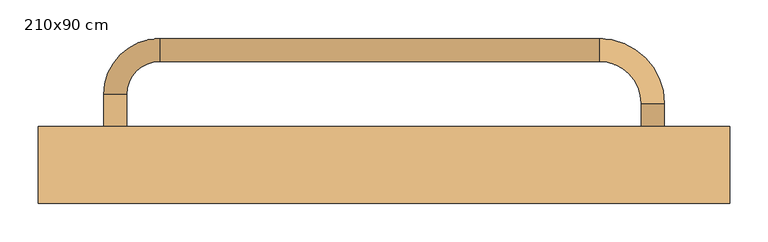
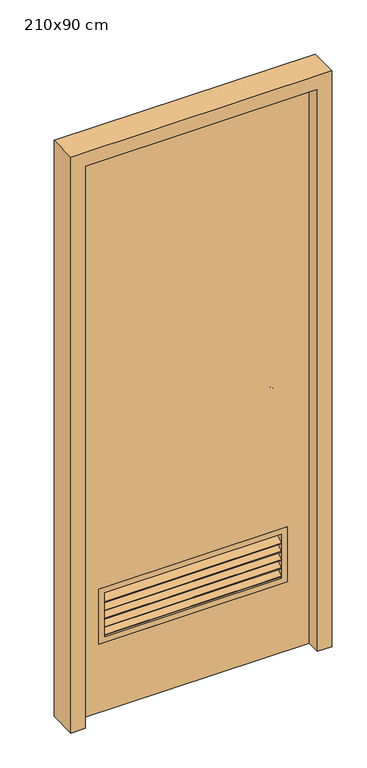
"""IFC4 building model written with IfcOpenShell, lengths in millimetres: door geometry, ARQ-PU-IN-Barra accesible : 210x90 cm."""

from ifc_helpers import new_model, si_unit, point, frame, origin, place, context, project, spatial, polyline, circle_curve, ellipse_curve, trimmed, outline, extrude, source, transform, mapped, element, save
from ifc_brep_helpers import plane_surface, cylinder_surface, revolved_surface, advanced_brep


def door_210x90_cm_49e920ed(model_context):
    return source(origin(), model_context, "Body", "SolidModel", [
        extrude(outline(polyline([(2100.0, -450.0), (0.0, -450.0), (0.0, -400.0), (2050.0, -400.0), (2050.0, 400.0), (0.0, 400.0), (0.0, 450.0), (2100.0, 450.0), (2100.0, -450.0)])), frame((0.0, -50.0, 0.0), z_axis=(0.0, 1.0, 0.0), x_axis=(0.0, 0.0, 1.0)), (0.0, 0.0, 1.0), 100.0),
        advanced_brep(
        [(-365.0, 50.0, 900.0), (-335.0, 50.0, 900.0), (-335.0, 91.9202999, 900.0), (-365.0, 91.9202999, 900.0), (-291.9202999, 135.0, 900.0), (-291.9202999, 165.0, 900.0), (280.3328988, 135.0, 900.0), (280.3328988, 165.0, 900.0), (335.0, 80.3328988, 900.0), (365.0, 80.3328988, 900.0), (365.0, 50.0, 900.0), (335.0, 50.0, 900.0)],
        [
            (0, 1, circle_curve(frame((-350.0, 50.0, 900.0), z_axis=(0.0, -1.0, 0.0), x_axis=(1.0, 0.0, 0.0)), 15.0)),
            (1, 0, circle_curve(frame((-350.0, 50.0, 900.0), z_axis=(0.0, -1.0, 0.0), x_axis=(1.0, 0.0, 0.0)), 15.0)),
            (1, 2),
            (2, 3, circle_curve(frame((-350.0, 91.9202999, 900.0), z_axis=(0.0, -1.0, 0.0), x_axis=(1.0, 0.0, 0.0)), 15.0)),
            (3, 0),
            (3, 2, circle_curve(frame((-350.0, 91.9202999, 900.0), z_axis=(0.0, -1.0, 0.0), x_axis=(1.0, 0.0, 0.0)), 15.0)),
            (4, 5, circle_curve(frame((-291.9202999, 150.0, 900.0), z_axis=(-1.0, 0.0, 0.0), x_axis=(0.0, -1.0, 0.0)), 15.0)),
            (5, 3, circle_curve(frame((-291.9202999, 91.9202999, 900.0), z_axis=(0.0, 0.0, 1.0), x_axis=(-1.0, 0.0, 0.0)), 73.0797001)),
            (2, 4, circle_curve(frame((-291.9202999, 91.9202999, 900.0), z_axis=(0.0, 0.0, -1.0), x_axis=(-1.0, 0.0, 0.0)), 43.0797001)),
            (5, 4, circle_curve(frame((-291.9202999, 150.0, 900.0), z_axis=(-1.0, 0.0, 0.0), x_axis=(0.0, -1.0, 0.0)), 15.0)),
            (4, 6),
            (6, 7, circle_curve(frame((280.3328988, 150.0, 900.0), z_axis=(-1.0, 0.0, 0.0), x_axis=(0.0, -1.0, 0.0)), 15.0)),
            (7, 5),
            (7, 6, circle_curve(frame((280.3328988, 150.0, 900.0), z_axis=(-1.0, 0.0, 0.0), x_axis=(0.0, -1.0, 0.0)), 15.0)),
            (8, 9, circle_curve(frame((350.0, 80.3328988, 900.0), z_axis=(0.0, 1.0, 0.0), x_axis=(-1.0, 0.0, 0.0)), 15.0)),
            (9, 7, circle_curve(frame((280.3328988, 80.3328988, 900.0), z_axis=(0.0, 0.0, 1.0), x_axis=(0.0, 1.0, 0.0)), 84.6671012)),
            (6, 8, circle_curve(frame((280.3328988, 80.3328988, 900.0), z_axis=(0.0, 0.0, -1.0), x_axis=(0.0, 1.0, 0.0)), 54.6671012)),
            (9, 8, circle_curve(frame((350.0, 80.3328988, 900.0), z_axis=(0.0, 1.0, 0.0), x_axis=(-1.0, 0.0, 0.0)), 15.0)),
            (10, 11, circle_curve(frame((350.0, 50.0, 900.0), z_axis=(0.0, -1.0, 0.0), x_axis=(-1.0, 0.0, 0.0)), 15.0)),
            (11, 10, circle_curve(frame((350.0, 50.0, 900.0), z_axis=(0.0, -1.0, 0.0), x_axis=(-1.0, 0.0, 0.0)), 15.0)),
            (8, 11),
            (10, 9),
        ],
        [
            plane_surface(frame((-350.0, 50.0, 900.0), z_axis=(0.0, -1.0, 0.0), x_axis=(0.0, 0.0, 1.0))),
            cylinder_surface(frame((-350.0, 50.0, 900.0), z_axis=(0.0, -1.0, 0.0), x_axis=(1.0, 0.0, 0.0)), 15.0),
            revolved_surface(trimmed(ellipse_curve(frame((-350.0, 91.9202999, 900.0), z_axis=(0.0, 1.0, 0.0), x_axis=(1.0, 0.0, 0.0)), 15.0, 15.0), [point((-365.0, 91.9202999, 900.0))], [point((-335.0, 91.9202999, 900.0))], True, "CARTESIAN"), (-291.9202999, 91.9202999, 900.0), (0.0, 0.0, 1.0)),
            revolved_surface(trimmed(ellipse_curve(frame((-350.0, 91.9202999, 900.0), z_axis=(0.0, 1.0, 0.0), x_axis=(1.0, 0.0, 0.0)), 15.0, 15.0), [point((-335.0, 91.9202999, 900.0))], [point((-365.0, 91.9202999, 900.0))], True, "CARTESIAN"), (-291.9202999, 91.9202999, 900.0), (0.0, 0.0, 1.0)),
            cylinder_surface(frame((-291.9202999, 150.0, 900.0), z_axis=(-1.0, 0.0, 0.0), x_axis=(0.0, -1.0, 0.0)), 15.0),
            revolved_surface(trimmed(ellipse_curve(frame((280.3328988, 150.0, 900.0), z_axis=(1.0, 0.0, 0.0), x_axis=(0.0, -1.0, 0.0)), 15.0, 15.0), [point((280.3328988, 165.0, 900.0))], [point((280.3328988, 135.0, 900.0))], True, "CARTESIAN"), (280.3328988, 80.3328988, 900.0), (0.0, 0.0, 1.0)),
            revolved_surface(trimmed(ellipse_curve(frame((280.3328988, 150.0, 900.0), z_axis=(1.0, 0.0, 0.0), x_axis=(0.0, -1.0, 0.0)), 15.0, 15.0), [point((280.3328988, 135.0, 900.0))], [point((280.3328988, 165.0, 900.0))], True, "CARTESIAN"), (280.3328988, 80.3328988, 900.0), (0.0, 0.0, 1.0)),
            plane_surface(frame((350.0, 50.0, 900.0), z_axis=(0.0, -1.0, 0.0), x_axis=(0.0, 0.0, 1.0))),
            cylinder_surface(frame((350.0, 80.3328988, 900.0), z_axis=(0.0, 1.0, 0.0), x_axis=(-1.0, 0.0, 0.0)), 15.0),
        ],
        [
            (0, [[1, 2]]),
            (1, [[3, 4, 5, -2]]),
            (1, [[-5, 6, -3, -1]]),
            (2, [[7, 8, -4, 9]]),
            (3, [[10, -9, -6, -8]]),
            (4, [[11, 12, 13, -7]]),
            (4, [[-13, 14, -11, -10]]),
            (5, [[15, 16, -12, 17]]),
            (6, [[18, -17, -14, -16]]),
            (7, [[19, 20]]),
            (8, [[21, -19, 22, -15]]),
            (8, [[-22, -20, -21, -18]]),
        ],
    ),
        extrude(outline(polyline([(0.0, 55.4154803), (610.0200372, 55.4154803), (610.0200372, 0.0), (0.0, 0.0), (0.0, 55.4154803)])), frame((305.0100186, 50.1127884, 421.6870193), z_axis=(0.0, -0.514495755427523, 0.8574929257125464), x_axis=(-1.0, 0.0, 0.0)), (0.0, 0.0, 1.0), 5.042619),
        extrude(outline(polyline([(0.0, 55.4154803), (610.0200372, 55.4154803), (610.0200372, 0.0), (0.0, 0.0), (0.0, 55.4154803)])), frame((305.0100186, 50.1127884, 391.6870193), z_axis=(0.0, -0.5144957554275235, 0.8574929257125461), x_axis=(-1.0, 0.0, 0.0)), (0.0, 0.0, 1.0), 5.042619),
        extrude(outline(polyline([(0.0, 55.4154803), (610.0200372, 55.4154803), (610.0200372, 0.0), (0.0, 0.0), (0.0, 55.4154803)])), frame((305.0100186, 50.1127884, 361.6870193), z_axis=(0.0, -0.514495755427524, 0.8574929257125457), x_axis=(-1.0, 0.0, 0.0)), (0.0, 0.0, 1.0), 5.042619),
        extrude(outline(polyline([(0.0, 55.4154803), (610.0200372, 55.4154803), (610.0200372, 0.0), (0.0, 0.0), (0.0, 55.4154803)])), frame((305.0100186, 50.1127884, 331.6870193), z_axis=(0.0, -0.5144957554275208, 0.8574929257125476), x_axis=(-1.0, 0.0, 0.0)), (0.0, 0.0, 1.0), 5.042619),
        extrude(outline(polyline([(0.0, 55.4154803), (610.0200372, 55.4154803), (610.0200372, 0.0), (0.0, 0.0), (0.0, 55.4154803)])), frame((305.0100186, 50.1127884, 301.6870193), z_axis=(0.0, -0.5144957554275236, 0.857492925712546), x_axis=(-1.0, 0.0, 0.0)), (0.0, 0.0, 1.0), 5.042619),
        extrude(outline(polyline([(450.0, 325.0100186), (450.0, -325.0100186), (250.0, -325.0100186), (250.0, 325.0100186), (450.0, 325.0100186)]), holes=[polyline([(430.0, 305.0100186), (270.0, 305.0100186), (270.0, -305.0100186), (430.0, -305.0100186), (430.0, 305.0100186)])]), frame((0.0, 0.0, 0.0), z_axis=(0.0, 1.0, 0.0), x_axis=(0.0, 0.0, 1.0)), (0.0, 0.0, 1.0), 50.0),
        extrude(outline(polyline([(2050.0, 400.0), (2050.0, -400.0), (0.0, -400.0), (0.0, 400.0), (2050.0, 400.0)]), holes=[polyline([(450.0, 325.0100186), (250.0, 325.0100186), (250.0, -325.0100186), (450.0, -325.0100186), (450.0, 325.0100186)])]), frame((0.0, 0.0, 0.0), z_axis=(0.0, 1.0, 0.0), x_axis=(0.0, 0.0, 1.0)), (0.0, 0.0, 1.0), 50.0),
    ])


if __name__ == "__main__":
    model = new_model("IFC4")
    model_context = context("Model", 3, world=origin())
    ifc_project = project(units=[si_unit("LENGTHUNIT", "METRE", prefix="MILLI")], contexts=[model_context])
    site = spatial("IfcSite", under=ifc_project)
    building = spatial("IfcBuilding", under=site)
    placement = place(None, origin())
    door_210x90_cm_shape = door_210x90_cm_49e920ed(model_context)
    element("IfcDoor", 1, ObjectType="ARQ-PU-IN-Barra accesible : 210x90 cm", at=placement, inside=building, context=model_context, shape_type="MappedRepresentation", body=[
        mapped(door_210x90_cm_shape, transform((0.0, 0.0, 0.0), x_axis=(1.0, 0.0, 0.0), y_axis=(0.0, 1.0, 0.0), z_axis=(0.0, 0.0, 1.0))),
    ])
    save(model, "model.ifc")
